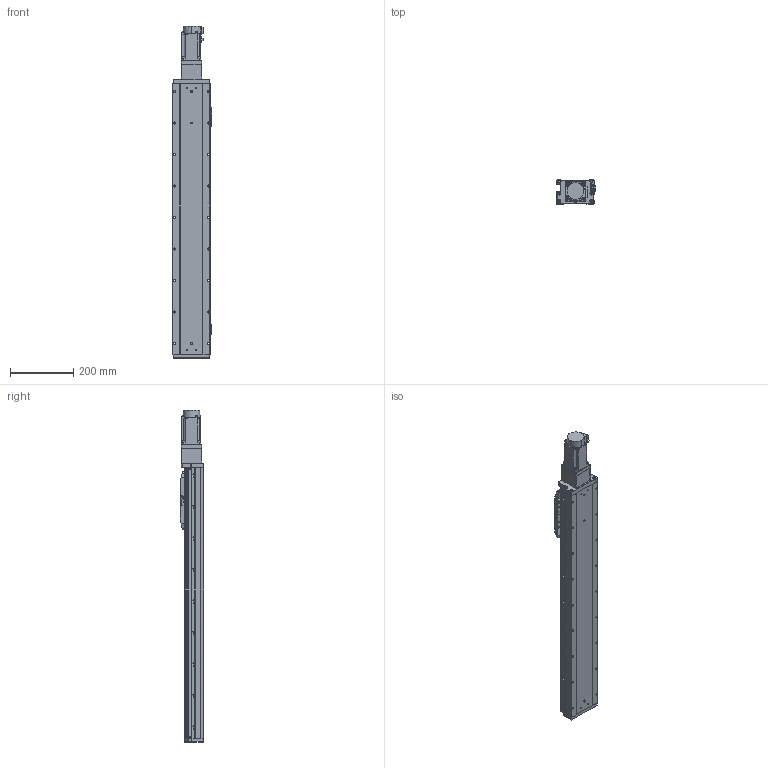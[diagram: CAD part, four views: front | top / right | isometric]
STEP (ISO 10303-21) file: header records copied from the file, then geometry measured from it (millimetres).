
FILE_DESCRIPTION (( 'STEP AP203' ), '1' );
FILE_NAME ('GTH12-650-BC-M40-C4.step', '2022-09-23T01:15:27', ( '微软用户' ), ( '微软中国' ), 'SwSTEP 2.0', 'SolidWorks 2020', '' );
FILE_SCHEMA (( 'CONFIG_CONTROL_DESIGN' ));
Length unit declared in the file: millimetre
Products named in the file (19): GTH120-006; GTH80-028; CTHA86-027; GTH120-004; GTH50-023; hg-kn43j_-s100_; GTH120-013; GTH50-024; GTH12-650-BC-M40-C4; GBT 70.1-M3℅6; GBT96.1-2002 3×0.8; GBT 70.1-M5×16; BTH-M3X5X6; GTH120-001_650; GBT 70.3-M3℅8; CTHA86-006-1_CTHA86-006-2; GTH120-003; GTH80-022; CTHA86-013
Assembly tree (62 placements, depth 2):
  GTH12-650-BC-M40-C4
    GTH120-001_650
    GTH120-003
    GTH120-006
    GTH120-004
    GTH120-013
    GBT 70.1-M3℅6  x14
    GBT 70.1-M5×16  x10
    GBT 70.3-M3℅8  x6
    GTH80-022
    GTH80-028  x2
    GTH50-023  x3
    GTH50-024  x3
    GBT96.1-2002 3×0.8  x6
    BTH-M3X5X6  x8
    CTHA86-006-1_CTHA86-006-2
    CTHA86-013
    CTHA86-027
    hg-kn43j_-s100_
Bounding box: 125.7 x 76 x 1053.7 mm (x, y, z)
Volume: 6682275.5 mm3; surface area: 613968.1 mm2
Topology: 64 solids, 64 shells, 2464 faces, 5713 edges, 3481 vertices
Faces by surface type: plane 1256, cylinder 699, cone 331, torus 170, sphere 8
Entity records: 44294 total; most frequent: DIRECTION 7403, CARTESIAN_POINT 7106, ORIENTED_EDGE 6808, EDGE_CURVE 3404, AXIS2_PLACEMENT_3D 2587, VECTOR 2229, LINE 2229, VERTEX_POINT 2140
